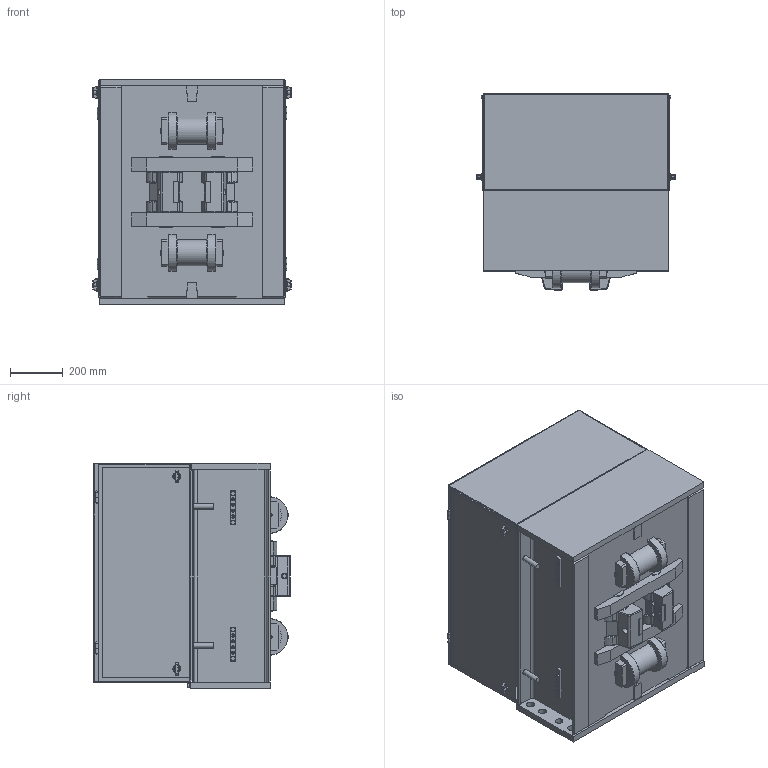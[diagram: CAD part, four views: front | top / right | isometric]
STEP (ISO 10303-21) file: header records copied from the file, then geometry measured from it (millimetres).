
FILE_DESCRIPTION(/* description */ ('','CAx-IF Rec.Pracs.---Representation and Presentation of Product Manufacturing Information (PMI)---3.8---2014-02-18'),/* implementation_level */ '2;1');
FILE_NAME(/* name */ 'C:\Users\martom01\Desktop\mail 14may18\new\new2\44815.stp',/* time_stamp */ '2018-05-14T16:59:57+02:00',/* author */ ('martom01'),/* organization */ (''),/* preprocessor_version */ 'ST-DEVELOPER v16.13',/* originating_system */ 'Autodesk Inventor 2018',/* authorisation */ '');
FILE_SCHEMA (('AP242_MANAGED_MODEL_BASED_3D_ENGINEERING_MIM_LF { 1 0 10303 442 1 1 4 }'));
Products named in the file (1): 44815_Shrinkwrap
Bounding box: 754.58 x 749.53 x 860 mm (x, y, z)
Volume: 325456911.2 mm3; surface area: 6627201 mm2
Topology: 1 solids, 1 shells, 1911 faces, 4814 edges, 2897 vertices
Faces by surface type: plane 867, cylinder 514, bspline 160, sphere 148, cone 126, torus 96
Full cylindrical faces by diameter (mm): 5.5 x4, 9.8 x4, 10 x6, 10.109 x2, 12 x2, 16 x2, 16.6 x4, 18 x6, 20 x8, 22.4 x2, 29 x8, 30 x4
Entity records: 65952 total; most frequent: CARTESIAN_POINT 20215, DIRECTION 9164, ORIENTED_EDGE 9066, EDGE_CURVE 4533, AXIS2_PLACEMENT_3D 3437, VERTEX_POINT 2795, LINE 2298, VECTOR 2298
